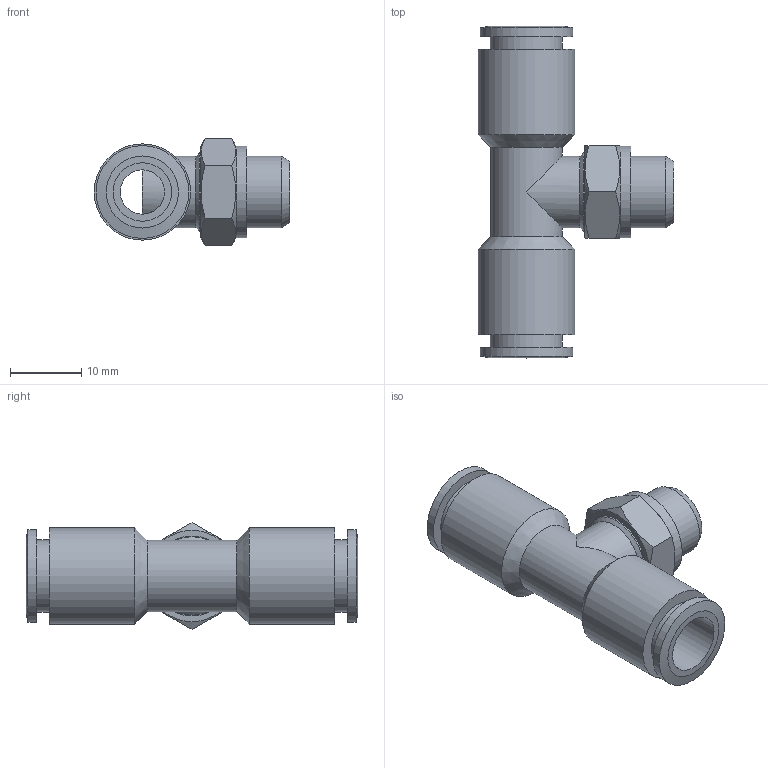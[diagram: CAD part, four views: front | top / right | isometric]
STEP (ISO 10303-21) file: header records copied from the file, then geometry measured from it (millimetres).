
FILE_DESCRIPTION((''),'2;1');
FILE_NAME('C:\Documents and Settings\rivolro1\Documenti\copia di Raccordi\PLASTICA\T20XXXX\T200818.stp','2007-10-31T15:26:46',('Rivolro1'),(''),'Autodesk Inventor 2008','Autodesk Inventor 2008','');
FILE_SCHEMA(('AUTOMOTIVE_DESIGN { 1 0 10303 214 1 1 1 1 }'));
Length unit declared in the file: millimetre
Products named in the file (1): T200818
Bounding box: 27.4 x 46.5 x 15.01 mm (x, y, z)
Volume: 4953.4 mm3; surface area: 4375.8 mm2
Topology: 1 solids, 1 shells, 45 faces, 92 edges, 59 vertices
Faces by surface type: plane 17, cylinder 16, cone 8, bspline 4
Full cylindrical faces by diameter (mm): 3.8 x1, 6.2 x1, 10 x3, 10.1 x2, 11 x1, 11.2 x1, 12.8 x1, 13 x2, 13.5 x2
Entity records: 1185 total; most frequent: CARTESIAN_POINT 290, DIRECTION 170, ORIENTED_EDGE 122, EDGE_LOOP 84, AXIS2_PLACEMENT_3D 81, EDGE_CURVE 61, VERTEX_POINT 53, FACE_OUTER_BOUND 45
